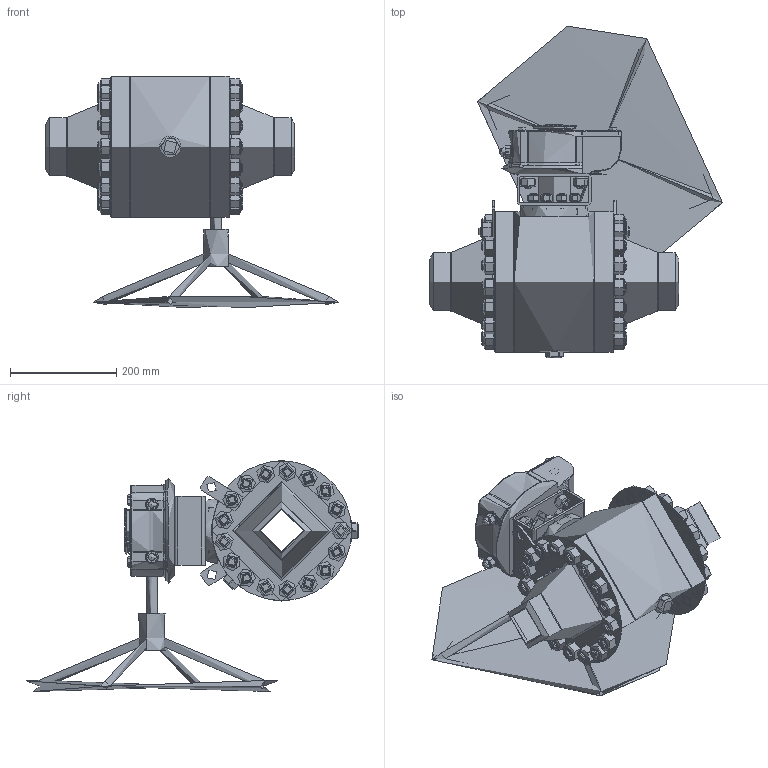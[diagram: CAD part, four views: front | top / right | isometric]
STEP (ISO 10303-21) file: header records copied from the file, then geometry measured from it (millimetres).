
FILE_DESCRIPTION(('STEP AP203'), '1');
FILE_NAME('ZARDP 080.250.40.P.stp', '2013-12-06T11:51:30', ('Ñèçîâ À.Í.'), ('ÎÎÎ "ÈÊ Ýíåðïðåä-ßðäîñ"'), 'ASCON STEP Converter 1.3', 'Kompas 3D', '');
FILE_SCHEMA(('CONFIG_CONTROL_DESIGN','SUPPORT_RESOURCE_SCHEMA'));
Length unit declared in the file: millimetre
Products named in the file (1): 293
Bounding box: 552.06 x 625.78 x 435.5 mm (x, y, z)
Topology: 95 solids, 97 shells, 2598 faces, 6301 edges, 4005 vertices
Faces by surface type: plane 1317, cylinder 559, cone 449, torus 167, bspline 56, sphere 34, extrusion 16
Full cylindrical faces by diameter (mm): 4.134 x2, 4.2 x2, 6 x1, 6.647 x4, 8 x4, 9 x4, 10.106 x32, 12 x30, 12.1 x8, 13 x20, 16 x9, 16.1 x4, 17 x4, 17.294 x8, 18 x12, 18.2 x8, 18.376 x2, 19 x12, 20 x74, 21 x4, 22 x4, 23.1 x4, 23.75 x2, 24 x3, 26 x2, 40 x2, 43 x1, 44 x1, 48 x1, 48.2 x1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
Entity records: 136107 total; most frequent: CARTESIAN_POINT 77324, ORIENTED_EDGE 12462, DIRECTION 11525, EDGE_CURVE 6234, AXIS2_PLACEMENT_3D 4438, VERTEX_POINT 3999, EDGE_LOOP 2948, VECTOR 2649
